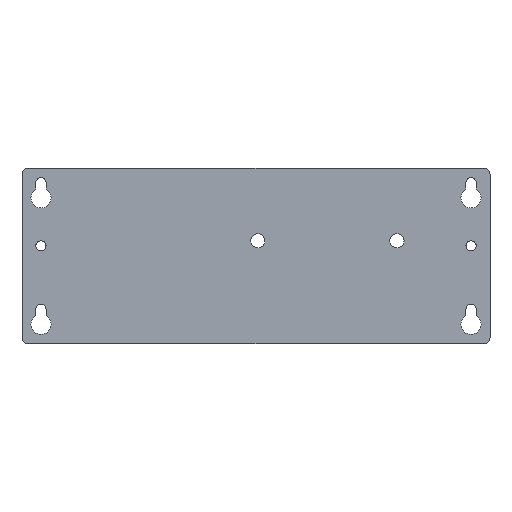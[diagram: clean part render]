
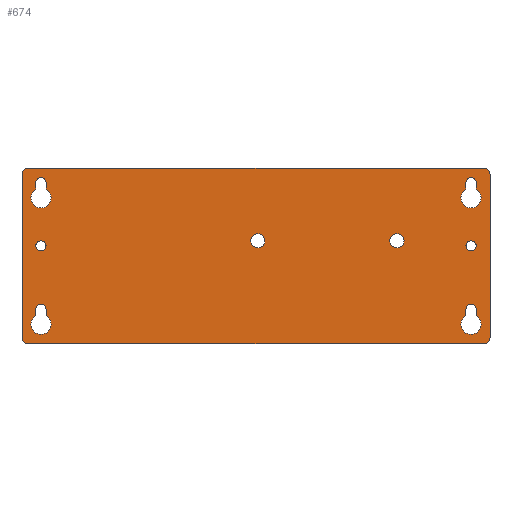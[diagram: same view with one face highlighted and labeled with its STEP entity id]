
A CAD part, top view. The second image highlights one B-rep face of the part: STEP entity #674.
In plain terms, the highlighted planar face has unit normal (0, 0, 1).
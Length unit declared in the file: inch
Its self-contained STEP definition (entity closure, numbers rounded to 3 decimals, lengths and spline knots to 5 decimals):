
#35=CARTESIAN_POINT('',(-4.50689,1.61689,0.));
#36=DIRECTION('',(0.,0.,1.));
#37=DIRECTION('',(0.,1.,0.));
#38=AXIS2_PLACEMENT_3D('',#35,#36,#37);
#40=DIRECTION('',(-1.,0.,0.));
#41=VECTOR('',#40,9.01378);
#42=CARTESIAN_POINT('',(4.50689,1.735,0.));
#43=LINE('',#42,#41);
#44=CARTESIAN_POINT('',(4.50689,1.61689,0.));
#45=DIRECTION('',(0.,0.,1.));
#46=DIRECTION('',(1.,0.,0.));
#47=AXIS2_PLACEMENT_3D('',#44,#45,#46);
#49=DIRECTION('',(0.,1.,0.));
#50=VECTOR('',#49,3.23378);
#51=CARTESIAN_POINT('',(4.625,-1.61689,0.));
#52=LINE('',#51,#50);
#53=CARTESIAN_POINT('',(4.50689,-1.61689,0.));
#54=DIRECTION('',(0.,0.,1.));
#55=DIRECTION('',(0.,-1.,0.));
#56=AXIS2_PLACEMENT_3D('',#53,#54,#55);
#58=DIRECTION('',(1.,0.,0.));
#59=VECTOR('',#58,9.01378);
#60=CARTESIAN_POINT('',(-4.50689,-1.735,0.));
#61=LINE('',#60,#59);
#62=CARTESIAN_POINT('',(-4.50689,-1.61689,0.));
#63=DIRECTION('',(0.,0.,1.));
#64=DIRECTION('',(-1.,0.,0.));
#65=AXIS2_PLACEMENT_3D('',#62,#63,#64);
#67=DIRECTION('',(0.,-1.,0.));
#68=VECTOR('',#67,3.23378);
#69=CARTESIAN_POINT('',(-4.625,1.61689,0.));
#70=LINE('',#69,#68);
#71=CARTESIAN_POINT('',(-4.25,0.2,0.));
#72=DIRECTION('',(0.,0.,1.));
#73=DIRECTION('',(1.,0.,0.));
#74=AXIS2_PLACEMENT_3D('',#71,#72,#73);
#76=CARTESIAN_POINT('',(-4.25,0.2,0.));
#77=DIRECTION('',(0.,0.,1.));
#78=DIRECTION('',(-1.,0.,0.));
#79=AXIS2_PLACEMENT_3D('',#76,#77,#78);
#81=DIRECTION('',(0.,1.,0.));
#82=VECTOR('',#81,0.12679);
#83=CARTESIAN_POINT('',(-4.15,1.32321,0.));
#84=LINE('',#83,#82);
#85=CARTESIAN_POINT('',(-4.25,1.45,0.));
#86=DIRECTION('',(0.,0.,1.));
#87=DIRECTION('',(1.,0.,0.));
#88=AXIS2_PLACEMENT_3D('',#85,#86,#87);
#90=DIRECTION('',(0.,-1.,0.));
#91=VECTOR('',#90,0.12679);
#92=CARTESIAN_POINT('',(-4.35,1.45,0.));
#93=LINE('',#92,#91);
#94=CARTESIAN_POINT('',(-4.25,1.15,0.));
#95=DIRECTION('',(0.,0.,1.));
#96=DIRECTION('',(-0.5,0.866,0.));
#97=AXIS2_PLACEMENT_3D('',#94,#95,#96);
#99=DIRECTION('',(0.,1.,0.));
#100=VECTOR('',#99,0.12679);
#101=CARTESIAN_POINT('',(-4.15,-1.17679,0.));
#102=LINE('',#101,#100);
#103=CARTESIAN_POINT('',(-4.25,-1.05,0.));
#104=DIRECTION('',(0.,0.,1.));
#105=DIRECTION('',(1.,0.,0.));
#106=AXIS2_PLACEMENT_3D('',#103,#104,#105);
#108=DIRECTION('',(0.,-1.,0.));
#109=VECTOR('',#108,0.12679);
#110=CARTESIAN_POINT('',(-4.35,-1.05,0.));
#111=LINE('',#110,#109);
#112=CARTESIAN_POINT('',(-4.25,-1.35,0.));
#113=DIRECTION('',(0.,0.,1.));
#114=DIRECTION('',(-0.5,0.866,0.));
#115=AXIS2_PLACEMENT_3D('',#112,#113,#114);
#117=CARTESIAN_POINT('',(4.25,0.2,0.));
#118=DIRECTION('',(0.,0.,1.));
#119=DIRECTION('',(1.,0.,0.));
#120=AXIS2_PLACEMENT_3D('',#117,#118,#119);
#122=CARTESIAN_POINT('',(4.25,0.2,0.));
#123=DIRECTION('',(0.,0.,1.));
#124=DIRECTION('',(-1.,0.,0.));
#125=AXIS2_PLACEMENT_3D('',#122,#123,#124);
#127=CARTESIAN_POINT('',(4.25,1.45,0.));
#128=DIRECTION('',(0.,0.,1.));
#129=DIRECTION('',(1.,0.,0.));
#130=AXIS2_PLACEMENT_3D('',#127,#128,#129);
#132=DIRECTION('',(0.,-1.,0.));
#133=VECTOR('',#132,0.12679);
#134=CARTESIAN_POINT('',(4.15,1.45,0.));
#135=LINE('',#134,#133);
#136=CARTESIAN_POINT('',(4.25,1.15,0.));
#137=DIRECTION('',(0.,0.,1.));
#138=DIRECTION('',(-0.5,0.866,0.));
#139=AXIS2_PLACEMENT_3D('',#136,#137,#138);
#141=DIRECTION('',(0.,1.,0.));
#142=VECTOR('',#141,0.12679);
#143=CARTESIAN_POINT('',(4.35,1.32321,0.));
#144=LINE('',#143,#142);
#145=CARTESIAN_POINT('',(4.25,-1.35,0.));
#146=DIRECTION('',(0.,0.,1.));
#147=DIRECTION('',(-0.5,0.866,0.));
#148=AXIS2_PLACEMENT_3D('',#145,#146,#147);
#150=DIRECTION('',(0.,1.,0.));
#151=VECTOR('',#150,0.12679);
#152=CARTESIAN_POINT('',(4.35,-1.17679,0.));
#153=LINE('',#152,#151);
#154=CARTESIAN_POINT('',(4.25,-1.05,0.));
#155=DIRECTION('',(0.,0.,1.));
#156=DIRECTION('',(1.,0.,0.));
#157=AXIS2_PLACEMENT_3D('',#154,#155,#156);
#159=DIRECTION('',(0.,-1.,0.));
#160=VECTOR('',#159,0.12679);
#161=CARTESIAN_POINT('',(4.15,-1.05,0.));
#162=LINE('',#161,#160);
#163=CARTESIAN_POINT('',(0.03543,0.30193,0.));
#164=DIRECTION('',(0.,0.,1.));
#165=DIRECTION('',(1.,0.,0.));
#166=AXIS2_PLACEMENT_3D('',#163,#164,#165);
#168=CARTESIAN_POINT('',(0.03543,0.30193,0.));
#169=DIRECTION('',(0.,0.,1.));
#170=DIRECTION('',(-1.,0.,0.));
#171=AXIS2_PLACEMENT_3D('',#168,#169,#170);
#173=CARTESIAN_POINT('',(2.78543,0.30193,0.));
#174=DIRECTION('',(0.,0.,1.));
#175=DIRECTION('',(1.,0.,0.));
#176=AXIS2_PLACEMENT_3D('',#173,#174,#175);
#178=CARTESIAN_POINT('',(2.78543,0.30193,0.));
#179=DIRECTION('',(0.,0.,1.));
#180=DIRECTION('',(-1.,0.,0.));
#181=AXIS2_PLACEMENT_3D('',#178,#179,#180);
#459=CARTESIAN_POINT('',(-4.15,0.2,0.));
#460=CARTESIAN_POINT('',(-4.35,0.2,0.));
#461=VERTEX_POINT('',#459);
#462=VERTEX_POINT('',#460);
#463=CARTESIAN_POINT('',(-4.15,1.32321,0.));
#464=CARTESIAN_POINT('',(-4.15,1.45,0.));
#465=VERTEX_POINT('',#463);
#466=VERTEX_POINT('',#464);
#467=CARTESIAN_POINT('',(-4.35,1.45,0.));
#468=VERTEX_POINT('',#467);
#469=CARTESIAN_POINT('',(-4.35,1.32321,0.));
#470=VERTEX_POINT('',#469);
#471=CARTESIAN_POINT('',(-4.15,-1.17679,0.));
#472=CARTESIAN_POINT('',(-4.15,-1.05,0.));
#473=VERTEX_POINT('',#471);
#474=VERTEX_POINT('',#472);
#475=CARTESIAN_POINT('',(-4.35,-1.05,0.));
#476=VERTEX_POINT('',#475);
#477=CARTESIAN_POINT('',(-4.35,-1.17679,0.));
#478=VERTEX_POINT('',#477);
#499=CARTESIAN_POINT('',(4.35,0.2,0.));
#500=CARTESIAN_POINT('',(4.15,0.2,0.));
#501=VERTEX_POINT('',#499);
#502=VERTEX_POINT('',#500);
#503=CARTESIAN_POINT('',(4.35,1.45,0.));
#504=CARTESIAN_POINT('',(4.15,1.45,0.));
#505=VERTEX_POINT('',#503);
#506=VERTEX_POINT('',#504);
#507=CARTESIAN_POINT('',(4.15,1.32321,0.));
#508=VERTEX_POINT('',#507);
#509=CARTESIAN_POINT('',(4.35,1.32321,0.));
#510=VERTEX_POINT('',#509);
#511=CARTESIAN_POINT('',(4.15,-1.17679,0.));
#512=CARTESIAN_POINT('',(4.35,-1.17679,0.));
#513=VERTEX_POINT('',#511);
#514=VERTEX_POINT('',#512);
#515=CARTESIAN_POINT('',(4.35,-1.05,0.));
#516=VERTEX_POINT('',#515);
#517=CARTESIAN_POINT('',(4.15,-1.05,0.));
#518=VERTEX_POINT('',#517);
#539=CARTESIAN_POINT('',(0.17598,0.30193,0.));
#540=CARTESIAN_POINT('',(-0.10512,0.30193,0.));
#541=VERTEX_POINT('',#539);
#542=VERTEX_POINT('',#540);
#543=CARTESIAN_POINT('',(2.92598,0.30193,0.));
#544=CARTESIAN_POINT('',(2.64488,0.30193,0.));
#545=VERTEX_POINT('',#543);
#546=VERTEX_POINT('',#544);
#555=CARTESIAN_POINT('',(-4.50689,1.735,0.));
#556=CARTESIAN_POINT('',(-4.625,1.61689,0.));
#557=VERTEX_POINT('',#555);
#558=VERTEX_POINT('',#556);
#563=CARTESIAN_POINT('',(-4.625,-1.61689,0.));
#564=CARTESIAN_POINT('',(-4.50689,-1.735,0.));
#565=VERTEX_POINT('',#563);
#566=VERTEX_POINT('',#564);
#571=CARTESIAN_POINT('',(4.50689,-1.735,0.));
#572=CARTESIAN_POINT('',(4.625,-1.61689,0.));
#573=VERTEX_POINT('',#571);
#574=VERTEX_POINT('',#572);
#579=CARTESIAN_POINT('',(4.625,1.61689,0.));
#580=CARTESIAN_POINT('',(4.50689,1.735,0.));
#581=VERTEX_POINT('',#579);
#582=VERTEX_POINT('',#580);
#587=CARTESIAN_POINT('',(0.,0.,0.));
#588=DIRECTION('',(0.,0.,1.));
#589=DIRECTION('',(1.,0.,0.));
#590=AXIS2_PLACEMENT_3D('',#587,#588,#589);
#591=PLANE('',#590);
#593=ORIENTED_EDGE('',*,*,#592,.F.);
#595=ORIENTED_EDGE('',*,*,#594,.F.);
#597=ORIENTED_EDGE('',*,*,#596,.F.);
#599=ORIENTED_EDGE('',*,*,#598,.F.);
#601=ORIENTED_EDGE('',*,*,#600,.F.);
#603=ORIENTED_EDGE('',*,*,#602,.F.);
#605=ORIENTED_EDGE('',*,*,#604,.F.);
#607=ORIENTED_EDGE('',*,*,#606,.F.);
#608=EDGE_LOOP('',(#593,#595,#597,#599,#601,#603,#605,#607));
#609=FACE_OUTER_BOUND('',#608,.F.);
#611=ORIENTED_EDGE('',*,*,#610,.T.);
#613=ORIENTED_EDGE('',*,*,#612,.T.);
#614=EDGE_LOOP('',(#611,#613));
#615=FACE_BOUND('',#614,.F.);
#617=ORIENTED_EDGE('',*,*,#616,.T.);
#619=ORIENTED_EDGE('',*,*,#618,.T.);
#621=ORIENTED_EDGE('',*,*,#620,.T.);
#623=ORIENTED_EDGE('',*,*,#622,.T.);
#624=EDGE_LOOP('',(#617,#619,#621,#623));
#625=FACE_BOUND('',#624,.F.);
#627=ORIENTED_EDGE('',*,*,#626,.T.);
#629=ORIENTED_EDGE('',*,*,#628,.T.);
#631=ORIENTED_EDGE('',*,*,#630,.T.);
#633=ORIENTED_EDGE('',*,*,#632,.T.);
#634=EDGE_LOOP('',(#627,#629,#631,#633));
#635=FACE_BOUND('',#634,.F.);
#637=ORIENTED_EDGE('',*,*,#636,.T.);
#639=ORIENTED_EDGE('',*,*,#638,.T.);
#640=EDGE_LOOP('',(#637,#639));
#641=FACE_BOUND('',#640,.F.);
#643=ORIENTED_EDGE('',*,*,#642,.T.);
#645=ORIENTED_EDGE('',*,*,#644,.T.);
#647=ORIENTED_EDGE('',*,*,#646,.T.);
#649=ORIENTED_EDGE('',*,*,#648,.T.);
#650=EDGE_LOOP('',(#643,#645,#647,#649));
#651=FACE_BOUND('',#650,.F.);
#653=ORIENTED_EDGE('',*,*,#652,.T.);
#655=ORIENTED_EDGE('',*,*,#654,.T.);
#657=ORIENTED_EDGE('',*,*,#656,.T.);
#659=ORIENTED_EDGE('',*,*,#658,.T.);
#660=EDGE_LOOP('',(#653,#655,#657,#659));
#661=FACE_BOUND('',#660,.F.);
#663=ORIENTED_EDGE('',*,*,#662,.T.);
#665=ORIENTED_EDGE('',*,*,#664,.T.);
#666=EDGE_LOOP('',(#663,#665));
#667=FACE_BOUND('',#666,.F.);
#669=ORIENTED_EDGE('',*,*,#668,.T.);
#671=ORIENTED_EDGE('',*,*,#670,.T.);
#672=EDGE_LOOP('',(#669,#671));
#673=FACE_BOUND('',#672,.F.);
#674=ADVANCED_FACE('',(#609,#615,#625,#635,#641,#651,#661,#667,#673),#591,.T.);
#39=CIRCLE('',#38,0.11811);
#48=CIRCLE('',#47,0.11811);
#57=CIRCLE('',#56,0.11811);
#66=CIRCLE('',#65,0.11811);
#75=CIRCLE('',#74,0.1);
#80=CIRCLE('',#79,0.1);
#89=CIRCLE('',#88,0.1);
#98=CIRCLE('',#97,0.2);
#107=CIRCLE('',#106,0.1);
#116=CIRCLE('',#115,0.2);
#121=CIRCLE('',#120,0.1);
#126=CIRCLE('',#125,0.1);
#131=CIRCLE('',#130,0.1);
#140=CIRCLE('',#139,0.2);
#149=CIRCLE('',#148,0.2);
#158=CIRCLE('',#157,0.1);
#167=CIRCLE('',#166,0.14055);
#172=CIRCLE('',#171,0.14055);
#177=CIRCLE('',#176,0.14055);
#182=CIRCLE('',#181,0.14055);
#592=EDGE_CURVE('',#557,#558,#39,.T.);
#594=EDGE_CURVE('',#582,#557,#43,.T.);
#596=EDGE_CURVE('',#581,#582,#48,.T.);
#598=EDGE_CURVE('',#574,#581,#52,.T.);
#600=EDGE_CURVE('',#573,#574,#57,.T.);
#602=EDGE_CURVE('',#566,#573,#61,.T.);
#604=EDGE_CURVE('',#565,#566,#66,.T.);
#606=EDGE_CURVE('',#558,#565,#70,.T.);
#610=EDGE_CURVE('',#461,#462,#75,.T.);
#612=EDGE_CURVE('',#462,#461,#80,.T.);
#616=EDGE_CURVE('',#465,#466,#84,.T.);
#618=EDGE_CURVE('',#466,#468,#89,.T.);
#620=EDGE_CURVE('',#468,#470,#93,.T.);
#622=EDGE_CURVE('',#470,#465,#98,.T.);
#626=EDGE_CURVE('',#473,#474,#102,.T.);
#628=EDGE_CURVE('',#474,#476,#107,.T.);
#630=EDGE_CURVE('',#476,#478,#111,.T.);
#632=EDGE_CURVE('',#478,#473,#116,.T.);
#636=EDGE_CURVE('',#501,#502,#121,.T.);
#638=EDGE_CURVE('',#502,#501,#126,.T.);
#642=EDGE_CURVE('',#505,#506,#131,.T.);
#644=EDGE_CURVE('',#506,#508,#135,.T.);
#646=EDGE_CURVE('',#508,#510,#140,.T.);
#648=EDGE_CURVE('',#510,#505,#144,.T.);
#652=EDGE_CURVE('',#513,#514,#149,.T.);
#654=EDGE_CURVE('',#514,#516,#153,.T.);
#656=EDGE_CURVE('',#516,#518,#158,.T.);
#658=EDGE_CURVE('',#518,#513,#162,.T.);
#662=EDGE_CURVE('',#541,#542,#167,.T.);
#664=EDGE_CURVE('',#542,#541,#172,.T.);
#668=EDGE_CURVE('',#545,#546,#177,.T.);
#670=EDGE_CURVE('',#546,#545,#182,.T.);
